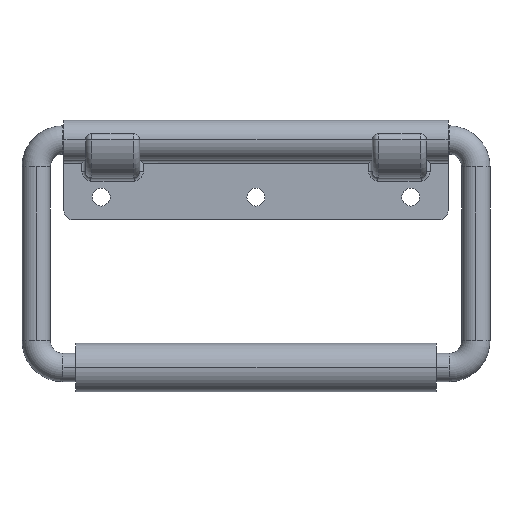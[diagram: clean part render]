
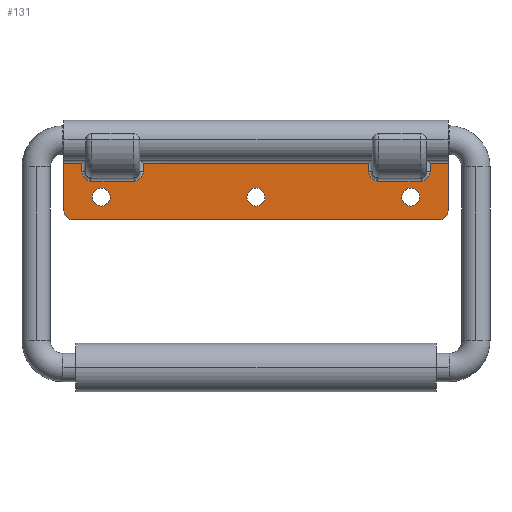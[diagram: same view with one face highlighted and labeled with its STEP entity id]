
A CAD part, top view. The second image highlights one B-rep face of the part: STEP entity #131.
In plain terms, the highlighted planar face has unit normal (0, 0, 1).
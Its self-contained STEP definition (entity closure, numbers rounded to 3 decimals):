
#131=ADVANCED_FACE('',(#236,#237,#238,#239),#240,.T.);
#236=FACE_BOUND('',#436,.T.);
#237=FACE_BOUND('',#437,.T.);
#238=FACE_BOUND('',#438,.T.);
#239=FACE_OUTER_BOUND('',#439,.T.);
#240=PLANE('',#440);
#436=EDGE_LOOP('',(#684,#685));
#437=EDGE_LOOP('',(#686,#687));
#438=EDGE_LOOP('',(#688,#689));
#439=EDGE_LOOP('',(#690,#691,#692,#693,#694,#695,#696,#697,#698,#699,#700,#701,#702,#703,#704,#705,#706,#707,#708,#709,#710,#711));
#440=AXIS2_PLACEMENT_3D('',#712,#713,#714);
#684=ORIENTED_EDGE('',*,*,#1381,.T.);
#685=ORIENTED_EDGE('',*,*,#1418,.T.);
#686=ORIENTED_EDGE('',*,*,#1385,.T.);
#687=ORIENTED_EDGE('',*,*,#1419,.T.);
#688=ORIENTED_EDGE('',*,*,#1389,.T.);
#689=ORIENTED_EDGE('',*,*,#1420,.T.);
#690=ORIENTED_EDGE('',*,*,#1414,.T.);
#691=ORIENTED_EDGE('',*,*,#1421,.F.);
#692=ORIENTED_EDGE('',*,*,#1422,.T.);
#693=ORIENTED_EDGE('',*,*,#1423,.F.);
#694=ORIENTED_EDGE('',*,*,#1424,.T.);
#695=ORIENTED_EDGE('',*,*,#1425,.T.);
#696=ORIENTED_EDGE('',*,*,#1426,.F.);
#697=ORIENTED_EDGE('',*,*,#1427,.T.);
#698=ORIENTED_EDGE('',*,*,#1428,.F.);
#699=ORIENTED_EDGE('',*,*,#1429,.T.);
#700=ORIENTED_EDGE('',*,*,#1430,.F.);
#701=ORIENTED_EDGE('',*,*,#1431,.F.);
#702=ORIENTED_EDGE('',*,*,#1432,.T.);
#703=ORIENTED_EDGE('',*,*,#1433,.T.);
#704=ORIENTED_EDGE('',*,*,#1434,.F.);
#705=ORIENTED_EDGE('',*,*,#1435,.T.);
#706=ORIENTED_EDGE('',*,*,#1436,.F.);
#707=ORIENTED_EDGE('',*,*,#1437,.T.);
#708=ORIENTED_EDGE('',*,*,#1438,.F.);
#709=ORIENTED_EDGE('',*,*,#1439,.F.);
#710=ORIENTED_EDGE('',*,*,#1440,.T.);
#711=ORIENTED_EDGE('',*,*,#1441,.T.);
#712=CARTESIAN_POINT('',(0.,-6.5,-5.5));
#713=DIRECTION('',(0.,0.,1.0));
#714=DIRECTION('',(0.,1.0,0.));
#1381=EDGE_CURVE('',#1619,#1616,#1620,.T.);
#1385=EDGE_CURVE('',#1627,#1624,#1628,.T.);
#1389=EDGE_CURVE('',#1635,#1632,#1636,.T.);
#1414=EDGE_CURVE('',#1682,#1683,#1684,.T.);
#1418=EDGE_CURVE('',#1616,#1619,#1690,.T.);
#1419=EDGE_CURVE('',#1624,#1627,#1691,.T.);
#1420=EDGE_CURVE('',#1632,#1635,#1692,.T.);
#1421=EDGE_CURVE('',#1693,#1683,#1694,.T.);
#1422=EDGE_CURVE('',#1693,#1695,#1696,.T.);
#1423=EDGE_CURVE('',#1697,#1695,#1698,.T.);
#1424=EDGE_CURVE('',#1697,#1699,#1700,.T.);
#1425=EDGE_CURVE('',#1699,#1701,#1702,.T.);
#1426=EDGE_CURVE('',#1703,#1701,#1704,.T.);
#1427=EDGE_CURVE('',#1703,#1705,#1706,.T.);
#1428=EDGE_CURVE('',#1707,#1705,#1708,.T.);
#1429=EDGE_CURVE('',#1707,#1709,#1710,.T.);
#1430=EDGE_CURVE('',#1711,#1709,#1712,.T.);
#1431=EDGE_CURVE('',#1713,#1711,#1714,.T.);
#1432=EDGE_CURVE('',#1713,#1715,#1716,.T.);
#1433=EDGE_CURVE('',#1715,#1717,#1718,.T.);
#1434=EDGE_CURVE('',#1719,#1717,#1720,.T.);
#1435=EDGE_CURVE('',#1719,#1721,#1722,.T.);
#1436=EDGE_CURVE('',#1723,#1721,#1724,.T.);
#1437=EDGE_CURVE('',#1723,#1725,#1726,.T.);
#1438=EDGE_CURVE('',#1727,#1725,#1728,.T.);
#1439=EDGE_CURVE('',#1729,#1727,#1730,.T.);
#1440=EDGE_CURVE('',#1729,#1731,#1732,.T.);
#1441=EDGE_CURVE('',#1731,#1682,#1733,.T.);
#1616=VERTEX_POINT('',#1996);
#1619=VERTEX_POINT('',#2000);
#1620=CIRCLE('',#2001,2.5);
#1624=VERTEX_POINT('',#2006);
#1627=VERTEX_POINT('',#2010);
#1628=CIRCLE('',#2011,2.5);
#1632=VERTEX_POINT('',#2016);
#1635=VERTEX_POINT('',#2020);
#1636=CIRCLE('',#2021,2.5);
#1682=VERTEX_POINT('',#2166);
#1683=VERTEX_POINT('',#2167);
#1684=CIRCLE('',#2168,2.5);
#1690=CIRCLE('',#2176,2.5);
#1691=CIRCLE('',#2177,2.5);
#1692=CIRCLE('',#2178,2.5);
#1693=VERTEX_POINT('',#2179);
#1694=LINE('',#2180,#2181);
#1695=VERTEX_POINT('',#2182);
#1696=CIRCLE('',#2183,2.5);
#1697=VERTEX_POINT('',#2184);
#1698=LINE('',#2185,#2186);
#1699=VERTEX_POINT('',#2187);
#1700=LINE('',#2188,#2189);
#1701=VERTEX_POINT('',#2190);
#1702=LINE('',#2191,#2192);
#1703=VERTEX_POINT('',#2193);
#1704=CIRCLE('',#2194,2.7);
#1705=VERTEX_POINT('',#2195);
#1706=LINE('',#2196,#2197);
#1707=VERTEX_POINT('',#2198);
#1708=LINE('',#2199,#2200);
#1709=VERTEX_POINT('',#2201);
#1710=LINE('',#2202,#2203);
#1711=VERTEX_POINT('',#2204);
#1712=CIRCLE('',#2205,2.7);
#1713=VERTEX_POINT('',#2206);
#1714=LINE('',#2207,#2208);
#1715=VERTEX_POINT('',#2209);
#1716=LINE('',#2210,#2211);
#1717=VERTEX_POINT('',#2212);
#1718=LINE('',#2213,#2214);
#1719=VERTEX_POINT('',#2215);
#1720=CIRCLE('',#2216,2.7);
#1721=VERTEX_POINT('',#2217);
#1722=LINE('',#2218,#2219);
#1723=VERTEX_POINT('',#2220);
#1724=LINE('',#2221,#2222);
#1725=VERTEX_POINT('',#2223);
#1726=LINE('',#2224,#2225);
#1727=VERTEX_POINT('',#2226);
#1728=CIRCLE('',#2227,2.7);
#1729=VERTEX_POINT('',#2228);
#1730=LINE('',#2229,#2230);
#1731=VERTEX_POINT('',#2231);
#1732=LINE('',#2232,#2233);
#1733=LINE('',#2234,#2235);
#1996=CARTESIAN_POINT('',(-7.85,-15.85,-5.5));
#2000=CARTESIAN_POINT('',(-12.85,-15.85,-5.5));
#2001=AXIS2_PLACEMENT_3D('',#2649,#2650,#2651);
#2006=CARTESIAN_POINT('',(-50.85,-15.85,-5.5));
#2010=CARTESIAN_POINT('',(-55.85,-15.85,-5.5));
#2011=AXIS2_PLACEMENT_3D('',#2657,#2658,#2659);
#2016=CARTESIAN_POINT('',(-93.85,-15.85,-5.5));
#2020=CARTESIAN_POINT('',(-98.85,-15.85,-5.5));
#2021=AXIS2_PLACEMENT_3D('',#2665,#2666,#2667);
#2166=CARTESIAN_POINT('',(-106.7,-19.7,-5.5));
#2167=CARTESIAN_POINT('',(-104.2,-22.2,-5.5));
#2168=AXIS2_PLACEMENT_3D('',#2706,#2707,#2708);
#2176=AXIS2_PLACEMENT_3D('',#2714,#2715,#2716);
#2177=AXIS2_PLACEMENT_3D('',#2717,#2718,#2719);
#2178=AXIS2_PLACEMENT_3D('',#2720,#2721,#2722);
#2179=CARTESIAN_POINT('',(-2.5,-22.2,-5.5));
#2180=CARTESIAN_POINT('',(0.,-22.2,-5.5));
#2181=VECTOR('',#2723,1.0);
#2182=CARTESIAN_POINT('',(0.,-19.7,-5.5));
#2183=AXIS2_PLACEMENT_3D('',#2724,#2725,#2726);
#2184=CARTESIAN_POINT('',(0.,-6.5,-5.5));
#2185=CARTESIAN_POINT('',(0.,-6.5,-5.5));
#2186=VECTOR('',#2727,1.0);
#2187=CARTESIAN_POINT('',(-5.0,-6.5,-5.5));
#2188=CARTESIAN_POINT('',(0.,-6.5,-5.5));
#2189=VECTOR('',#2728,1.0);
#2190=CARTESIAN_POINT('',(-5.0,-8.74,-5.5));
#2191=CARTESIAN_POINT('',(-5.0,-7.62,-5.5));
#2192=VECTOR('',#2729,1.0);
#2193=CARTESIAN_POINT('',(-7.5,-11.433,-5.5));
#2194=AXIS2_PLACEMENT_3D('',#2730,#2731,#2732);
#2195=CARTESIAN_POINT('',(-7.5,-11.44,-5.5));
#2196=CARTESIAN_POINT('',(-7.5,-8.41,-5.5));
#2197=VECTOR('',#2733,1.0);
#2198=CARTESIAN_POINT('',(-19.5,-11.44,-5.5));
#2199=CARTESIAN_POINT('',(-13.5,-11.44,-5.5));
#2200=VECTOR('',#2734,1.0);
#2201=CARTESIAN_POINT('',(-19.5,-11.433,-5.5));
#2202=CARTESIAN_POINT('',(-19.5,-8.41,-5.5));
#2203=VECTOR('',#2735,1.0);
#2204=CARTESIAN_POINT('',(-22.0,-8.74,-5.5));
#2205=AXIS2_PLACEMENT_3D('',#2736,#2737,#2738);
#2206=CARTESIAN_POINT('',(-22.0,-6.5,-5.5));
#2207=CARTESIAN_POINT('',(-22.0,-7.62,-5.5));
#2208=VECTOR('',#2739,1.0);
#2209=CARTESIAN_POINT('',(-84.7,-6.5,-5.5));
#2210=CARTESIAN_POINT('',(0.,-6.5,-5.5));
#2211=VECTOR('',#2740,1.0);
#2212=CARTESIAN_POINT('',(-84.7,-8.74,-5.5));
#2213=CARTESIAN_POINT('',(-84.7,-7.62,-5.5));
#2214=VECTOR('',#2741,1.0);
#2215=CARTESIAN_POINT('',(-87.2,-11.433,-5.5));
#2216=AXIS2_PLACEMENT_3D('',#2742,#2743,#2744);
#2217=CARTESIAN_POINT('',(-87.2,-11.44,-5.5));
#2218=CARTESIAN_POINT('',(-87.2,-8.41,-5.5));
#2219=VECTOR('',#2745,1.0);
#2220=CARTESIAN_POINT('',(-99.2,-11.44,-5.5));
#2221=CARTESIAN_POINT('',(-93.2,-11.44,-5.5));
#2222=VECTOR('',#2746,1.0);
#2223=CARTESIAN_POINT('',(-99.2,-11.433,-5.5));
#2224=CARTESIAN_POINT('',(-99.2,-8.41,-5.5));
#2225=VECTOR('',#2747,1.0);
#2226=CARTESIAN_POINT('',(-101.7,-8.74,-5.5));
#2227=AXIS2_PLACEMENT_3D('',#2748,#2749,#2750);
#2228=CARTESIAN_POINT('',(-101.7,-6.5,-5.5));
#2229=CARTESIAN_POINT('',(-101.7,-7.62,-5.5));
#2230=VECTOR('',#2751,1.0);
#2231=CARTESIAN_POINT('',(-106.7,-6.5,-5.5));
#2232=CARTESIAN_POINT('',(0.,-6.5,-5.5));
#2233=VECTOR('',#2752,1.0);
#2234=CARTESIAN_POINT('',(-106.7,-6.5,-5.5));
#2235=VECTOR('',#2753,1.0);
#2649=CARTESIAN_POINT('',(-10.35,-15.85,-5.5));
#2650=DIRECTION('',(0.,0.,-1.0));
#2651=DIRECTION('',(1.0,0.0,0.));
#2657=CARTESIAN_POINT('',(-53.35,-15.85,-5.5));
#2658=DIRECTION('',(0.,0.,-1.0));
#2659=DIRECTION('',(1.0,0.0,0.));
#2665=CARTESIAN_POINT('',(-96.35,-15.85,-5.5));
#2666=DIRECTION('',(0.,0.,-1.0));
#2667=DIRECTION('',(1.0,0.0,0.));
#2706=CARTESIAN_POINT('',(-104.2,-19.7,-5.5));
#2707=DIRECTION('',(0.,0.,1.0));
#2708=DIRECTION('',(0.,-1.0,0.));
#2714=CARTESIAN_POINT('',(-10.35,-15.85,-5.5));
#2715=DIRECTION('',(0.,0.,-1.0));
#2716=DIRECTION('',(1.0,0.0,0.));
#2717=CARTESIAN_POINT('',(-53.35,-15.85,-5.5));
#2718=DIRECTION('',(0.,0.,-1.0));
#2719=DIRECTION('',(1.0,0.0,0.));
#2720=CARTESIAN_POINT('',(-96.35,-15.85,-5.5));
#2721=DIRECTION('',(0.,0.,-1.0));
#2722=DIRECTION('',(1.0,0.0,0.));
#2723=DIRECTION('',(-1.0,0.0,0.));
#2724=CARTESIAN_POINT('',(-2.5,-19.7,-5.5));
#2725=DIRECTION('',(0.,0.,1.0));
#2726=DIRECTION('',(1.0,0.,0.));
#2727=DIRECTION('',(0.,-1.0,0.));
#2728=DIRECTION('',(-1.0,0.0,0.));
#2729=DIRECTION('',(0.,-1.0,0.));
#2730=CARTESIAN_POINT('',(-7.7,-8.74,-5.5));
#2731=DIRECTION('',(0.,0.,1.0));
#2732=DIRECTION('',(-1.0,0.,0.));
#2733=DIRECTION('',(0.,-1.0,0.));
#2734=DIRECTION('',(1.0,0.0,0.));
#2735=DIRECTION('',(0.,1.0,0.));
#2736=CARTESIAN_POINT('',(-19.3,-8.74,-5.5));
#2737=DIRECTION('',(0.,0.,1.0));
#2738=DIRECTION('',(-1.0,0.,0.));
#2739=DIRECTION('',(0.0,-1.0,0.));
#2740=DIRECTION('',(-1.0,0.0,0.));
#2741=DIRECTION('',(0.,-1.0,0.));
#2742=CARTESIAN_POINT('',(-87.4,-8.74,-5.5));
#2743=DIRECTION('',(0.,0.,1.0));
#2744=DIRECTION('',(-1.0,0.,0.));
#2745=DIRECTION('',(0.,-1.0,0.));
#2746=DIRECTION('',(1.0,0.0,0.));
#2747=DIRECTION('',(0.,1.0,0.));
#2748=CARTESIAN_POINT('',(-99.0,-8.74,-5.5));
#2749=DIRECTION('',(0.,0.,1.0));
#2750=DIRECTION('',(-1.0,0.,0.));
#2751=DIRECTION('',(0.0,-1.0,0.));
#2752=DIRECTION('',(-1.0,0.0,0.));
#2753=DIRECTION('',(0.,-1.0,0.));
